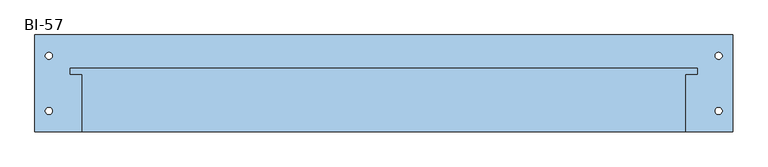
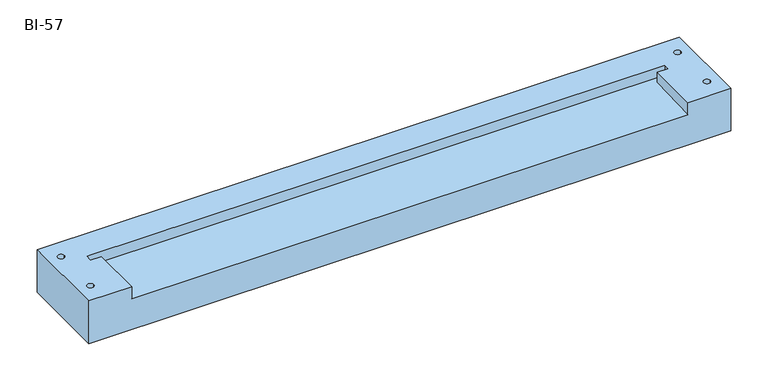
"""IFC4 building model written with IfcOpenShell, lengths in millimetres: window geometry, 30_NS_BI_51-57 : BI-57."""

from ifc_helpers import new_model, si_unit, frame, origin, place, context, project, spatial, polyline, circle_curve, source, transform, mapped, element, save
from ifc_brep_helpers import plane_surface, revolved_surface, advanced_brep


def bi_57_fd359ef2(model_context):
    return source(origin(), model_context, "Body", "AdvancedBrep", [
        advanced_brep(
        [(0.0, -139.0, 0.0), (0.0, 0.0, 0.0), (933.0, 0.0, 0.0), (1000.0, 0.0, 0.0), (1000.0, -139.0, 0.0), (975.0, -109.0, 0.0), (985.0, -109.0, 0.0), (975.0, -30.0, 0.0), (985.0, -30.0, 0.0), (15.0, -109.0, 0.0), (25.0, -109.0, 0.0), (15.0, -30.0, 0.0), (25.0, -30.0, 0.0), (0.0, -139.0, 70.0), (67.0, -139.0, 70.0), (67.0, -57.0, 70.0), (50.0, -57.0, 70.0), (50.0, -47.0, 70.0), (950.0, -47.0, 70.0), (950.0, -57.0, 70.0), (933.0, -57.0, 70.0), (933.0, -139.0, 70.0), (1000.0, -139.0, 70.0), (1000.0, 0.0, 70.0), (0.0, 0.0, 70.0), (985.0, -109.0, 70.0), (975.0, -109.0, 70.0), (985.0, -30.0, 70.0), (975.0, -30.0, 70.0), (25.0, -109.0, 70.0), (15.0, -109.0, 70.0), (25.0, -30.0, 70.0), (15.0, -30.0, 70.0), (50.0, -47.0, 53.0), (50.0, -57.0, 52.7010175), (67.0, -57.0, 52.7010175), (67.0, -139.0, 50.2493606), (933.0, -139.0, 50.2493606), (933.0, -57.0, 52.7010175), (950.0, -57.0, 52.7010175), (950.0, -47.0, 53.0), (933.0, -47.0, 53.0)],
        [
            (0, 1),
            (1, 2),
            (2, 3),
            (3, 4),
            (4, 0),
            (5, 6, circle_curve(frame((980.0, -109.0, 0.0), z_axis=(0.0, 0.0, 1.0), x_axis=(1.0, 0.0, 0.0)), 5.0)),
            (6, 5, circle_curve(frame((980.0, -109.0, 0.0), z_axis=(0.0, 0.0, 1.0), x_axis=(1.0, 0.0, 0.0)), 5.0)),
            (7, 8, circle_curve(frame((980.0, -30.0, 0.0), z_axis=(0.0, 0.0, 1.0), x_axis=(1.0, 0.0, 0.0)), 5.0)),
            (8, 7, circle_curve(frame((980.0, -30.0, 0.0), z_axis=(0.0, 0.0, 1.0), x_axis=(1.0, 0.0, 0.0)), 5.0)),
            (9, 10, circle_curve(frame((20.0, -109.0, 0.0), z_axis=(0.0, 0.0, 1.0), x_axis=(1.0, 0.0, 0.0)), 5.0)),
            (10, 9, circle_curve(frame((20.0, -109.0, 0.0), z_axis=(0.0, 0.0, 1.0), x_axis=(1.0, 0.0, 0.0)), 5.0)),
            (11, 12, circle_curve(frame((20.0, -30.0, 0.0), z_axis=(0.0, 0.0, 1.0), x_axis=(1.0, 0.0, 0.0)), 5.0)),
            (12, 11, circle_curve(frame((20.0, -30.0, 0.0), z_axis=(0.0, 0.0, 1.0), x_axis=(1.0, 0.0, 0.0)), 5.0)),
            (13, 14),
            (14, 15),
            (15, 16),
            (16, 17),
            (17, 18),
            (18, 19),
            (19, 20),
            (20, 21),
            (21, 22),
            (22, 23),
            (23, 24),
            (24, 13),
            (25, 26, circle_curve(frame((980.0, -109.0, 70.0), z_axis=(0.0, 0.0, -1.0), x_axis=(1.0, 0.0, 0.0)), 5.0)),
            (26, 25, circle_curve(frame((980.0, -109.0, 70.0), z_axis=(0.0, 0.0, -1.0), x_axis=(1.0, 0.0, 0.0)), 5.0)),
            (27, 28, circle_curve(frame((980.0, -30.0, 70.0), z_axis=(0.0, 0.0, -1.0), x_axis=(1.0, 0.0, 0.0)), 5.0)),
            (28, 27, circle_curve(frame((980.0, -30.0, 70.0), z_axis=(0.0, 0.0, -1.0), x_axis=(1.0, 0.0, 0.0)), 5.0)),
            (29, 30, circle_curve(frame((20.0, -109.0, 70.0), z_axis=(0.0, 0.0, -1.0), x_axis=(1.0, 0.0, 0.0)), 5.0)),
            (30, 29, circle_curve(frame((20.0, -109.0, 70.0), z_axis=(0.0, 0.0, -1.0), x_axis=(1.0, 0.0, 0.0)), 5.0)),
            (31, 32, circle_curve(frame((20.0, -30.0, 70.0), z_axis=(0.0, 0.0, -1.0), x_axis=(1.0, 0.0, 0.0)), 5.0)),
            (32, 31, circle_curve(frame((20.0, -30.0, 70.0), z_axis=(0.0, 0.0, -1.0), x_axis=(1.0, 0.0, 0.0)), 5.0)),
            (3, 23),
            (22, 4),
            (33, 34),
            (34, 35),
            (35, 36),
            (36, 37),
            (37, 38),
            (38, 39),
            (39, 40),
            (40, 41),
            (41, 33),
            (5, 26),
            (25, 6),
            (7, 28),
            (27, 8),
            (9, 30),
            (29, 10),
            (11, 32),
            (31, 12),
            (17, 33),
            (40, 18),
            (16, 34),
            (15, 35),
            (14, 36),
            (13, 0),
            (21, 37),
            (24, 1),
            (20, 38),
            (19, 39),
        ],
        [
            plane_surface(frame((0.0, 0.0, 0.0), z_axis=(0.0, 0.0, -1.0), x_axis=(1.0, 0.0, 0.0))),
            plane_surface(frame((0.0, 0.0, 70.0), z_axis=(0.0, 0.0, 1.0), x_axis=(1.0, 0.0, 0.0))),
            plane_surface(frame((1000.0, 0.0, 0.0), z_axis=(1.0, 0.0, 0.0), x_axis=(0.0, 0.0, 1.0))),
            plane_surface(frame((0.0, -139.0, 50.2493606), z_axis=(0.0, -0.029884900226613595, 0.9995533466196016), x_axis=(1.0, 0.0, 0.0))),
            revolved_surface(polyline([(985.0, -109.0, 0.0), (985.0, -109.0, 70.0)]), (980.0, -109.0, 0.0), (0.0, 0.0, -1.0)),
            revolved_surface(polyline([(985.0, -30.0, 0.0), (985.0, -30.0, 70.0)]), (980.0, -30.0, 0.0), (0.0, 0.0, -1.0)),
            revolved_surface(polyline([(25.0, -109.0, 0.0), (25.0, -109.0, 70.0)]), (20.0, -109.0, 0.0), (0.0, 0.0, -1.0)),
            revolved_surface(polyline([(25.0, -30.0, 0.0), (25.0, -30.0, 70.0)]), (20.0, -30.0, 0.0), (0.0, 0.0, -1.0)),
            plane_surface(frame((67.0, -47.0, 0.0), z_axis=(0.0, -1.0, 0.0), x_axis=(0.0, 0.0, 1.0))),
            plane_surface(frame((50.0, -47.0, 0.0), z_axis=(1.0, 0.0, 0.0), x_axis=(0.0, 0.0, 1.0))),
            plane_surface(frame((50.0, -57.0, 0.0), z_axis=(0.0, 1.0, 0.0), x_axis=(0.0, 0.0, 1.0))),
            plane_surface(frame((67.0, -57.0, 0.0), z_axis=(1.0, 0.0, 0.0), x_axis=(0.0, 0.0, 1.0))),
            plane_surface(frame((67.0, -139.0, 0.0), z_axis=(0.0, -1.0, 0.0), x_axis=(0.0, 0.0, 1.0))),
            plane_surface(frame((0.0, -139.0, 0.0), z_axis=(-1.0, 0.0, 0.0), x_axis=(0.0, 0.0, 1.0))),
            plane_surface(frame((0.0, 0.0, 0.0), z_axis=(0.0, 1.0, 0.0), x_axis=(0.0, 0.0, 1.0))),
            plane_surface(frame((933.0, -139.0, 0.0), z_axis=(-1.0, 0.0, 0.0), x_axis=(0.0, 0.0, 1.0))),
            plane_surface(frame((933.0, -57.0, 0.0), z_axis=(0.0, 1.0, 0.0), x_axis=(0.0, 0.0, 1.0))),
            plane_surface(frame((950.0, -57.0, 0.0), z_axis=(-1.0, 0.0, 0.0), x_axis=(0.0, 0.0, 1.0))),
        ],
        [
            (0, [[1, 2, 3, 4, 5], [6, 7], [8, 9], [10, 11], [12, 13]]),
            (1, [[14, 15, 16, 17, 18, 19, 20, 21, 22, 23, 24, 25], [26, 27], [28, 29], [30, 31], [32, 33]]),
            (2, [[-4, 34, -23, 35]]),
            (3, [[36, 37, 38, 39, 40, 41, 42, 43, 44]]),
            (4, [[45, -26, 46, -6]]),
            (4, [[-45, -7, -46, -27]]),
            (5, [[47, -28, 48, -8]]),
            (5, [[-47, -9, -48, -29]]),
            (6, [[49, -30, 50, -10]]),
            (6, [[-49, -11, -50, -31]]),
            (7, [[51, -32, 52, -12]]),
            (7, [[-51, -13, -52, -33]]),
            (8, [[53, -44, -43, 54, -18]]),
            (9, [[-17, 55, -36, -53]]),
            (10, [[-16, 56, -37, -55]]),
            (11, [[-15, 57, -38, -56]]),
            (12, [[-14, 58, -5, -35, -22, 59, -39, -57]]),
            (13, [[-1, -58, -25, 60]]),
            (14, [[-60, -24, -34, -3, -2]]),
            (15, [[-21, 61, -40, -59]]),
            (16, [[-20, 62, -41, -61]]),
            (17, [[-19, -54, -42, -62]]),
        ],
    ),
    ])


if __name__ == "__main__":
    model = new_model("IFC4")
    model_context = context("Model", 3, world=origin())
    ifc_project = project(units=[si_unit("LENGTHUNIT", "METRE", prefix="MILLI")], contexts=[model_context])
    site = spatial("IfcSite", under=ifc_project)
    building = spatial("IfcBuilding", under=site)
    placement = place(None, origin())
    bi_57_shape = bi_57_fd359ef2(model_context)
    element("IfcWindow", 1, ObjectType="30_NS_BI_51-57 : BI-57", at=placement, inside=building, context=model_context, shape_type="MappedRepresentation", body=[
        mapped(bi_57_shape, transform((0.0, 0.0, 0.0), x_axis=(1.0, 0.0, 0.0), y_axis=(0.0, 1.0, 0.0), z_axis=(0.0, 0.0, 1.0))),
    ])
    save(model, "model.ifc")
